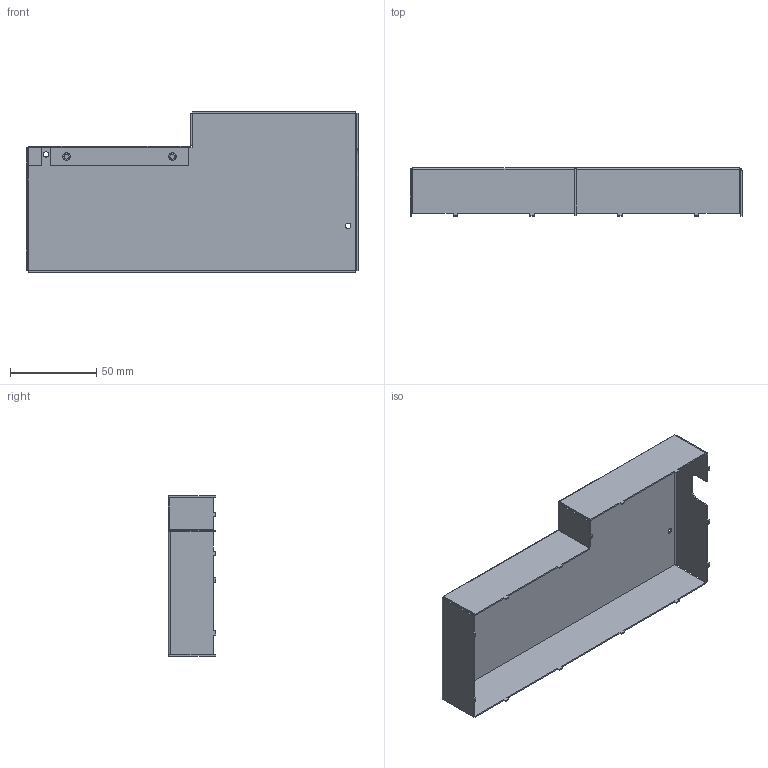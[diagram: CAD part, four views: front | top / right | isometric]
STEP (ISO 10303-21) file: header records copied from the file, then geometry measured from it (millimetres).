
FILE_DESCRIPTION((''),'2;1');
FILE_NAME('6221-318','2023-03-17T11:13:59',('u624595'),(''),'CREO PARAMETRIC BY PTC INC, 2022284','CREO PARAMETRIC BY PTC INC, 2022284','');
FILE_SCHEMA(('CONFIG_CONTROL_DESIGN','SHAPE_APPEARANCE_LAYERS_GROUPS'));
Length unit declared in the file: inch
Products named in the file (1): 6221-318
Bounding box: 192.07 x 27.71 x 92.76 mm (x, y, z)
Volume: 24192 mm3; surface area: 60350.3 mm2
Topology: 1 solids, 1 shells, 121 faces, 337 edges, 220 vertices
Faces by surface type: plane 103, cylinder 14, bspline 4
Entity records: 4157 total; most frequent: CARTESIAN_POINT 786, ORIENTED_EDGE 674, DIRECTION 611, EDGE_CURVE 337, VECTOR 297, LINE 297, VERTEX_POINT 220, COLOUR_RGB 190
